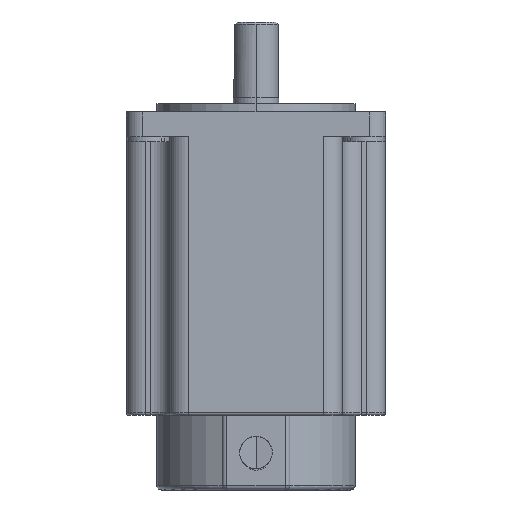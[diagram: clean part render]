
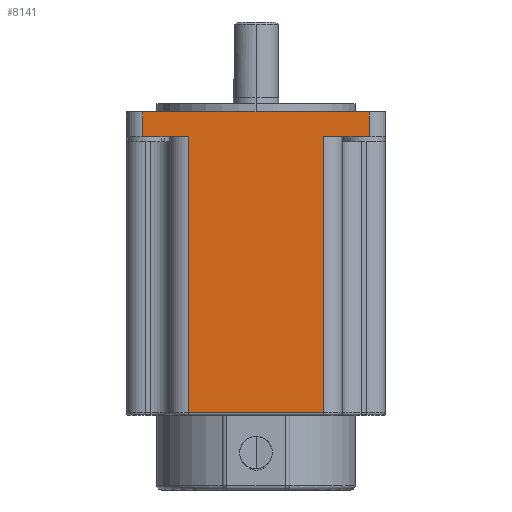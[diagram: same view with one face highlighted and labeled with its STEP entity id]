
A CAD part, left-side view. The second image highlights one B-rep face of the part: STEP entity #8141.
In plain terms, the highlighted planar face has unit normal (-1, 0, 0).
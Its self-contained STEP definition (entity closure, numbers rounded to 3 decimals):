
#1679=DIRECTION('',(0.,0.,-1.));
#1680=VECTOR('',#1679,118.3);
#1681=CARTESIAN_POINT('',(-157.914,14.418,-10.7));
#1682=LINE('',#1681,#1680);
#2141=DIRECTION('',(0.,0.,1.));
#2142=VECTOR('',#2141,10.7);
#2143=CARTESIAN_POINT('',(-157.914,91.918,-10.7));
#2144=LINE('',#2143,#2142);
#2149=DIRECTION('',(0.,1.,0.));
#2150=VECTOR('',#2149,97.);
#2151=CARTESIAN_POINT('',(-157.914,-5.082,0.));
#2152=LINE('',#2151,#2150);
#2157=DIRECTION('',(0.,0.,1.));
#2158=VECTOR('',#2157,118.3);
#2159=CARTESIAN_POINT('',(-157.914,72.418,-129.));
#2160=LINE('',#2159,#2158);
#2180=DIRECTION('',(0.,1.,0.));
#2181=VECTOR('',#2180,58.);
#2182=CARTESIAN_POINT('',(-157.914,14.418,-129.));
#2183=LINE('',#2182,#2181);
#2286=DIRECTION('',(0.,1.,0.));
#2287=VECTOR('',#2286,19.5);
#2288=CARTESIAN_POINT('',(-157.914,72.418,-10.7));
#2289=LINE('',#2288,#2287);
#3542=DIRECTION('',(0.,0.,-1.));
#3543=VECTOR('',#3542,10.7);
#3544=CARTESIAN_POINT('',(-157.914,-5.082,0.));
#3545=LINE('',#3544,#3543);
#3875=DIRECTION('',(0.,1.,0.));
#3876=VECTOR('',#3875,19.5);
#3877=CARTESIAN_POINT('',(-157.914,-5.082,-10.7));
#3878=LINE('',#3877,#3876);
#4275=CARTESIAN_POINT('',(-157.914,72.418,-129.));
#4276=CARTESIAN_POINT('',(-157.914,72.418,-10.7));
#4277=VERTEX_POINT('',#4275);
#4278=VERTEX_POINT('',#4276);
#4279=CARTESIAN_POINT('',(-157.914,14.418,-129.));
#4280=VERTEX_POINT('',#4279);
#4281=CARTESIAN_POINT('',(-157.914,14.418,-10.7));
#4282=VERTEX_POINT('',#4281);
#4283=CARTESIAN_POINT('',(-157.914,-5.082,-10.7));
#4284=VERTEX_POINT('',#4283);
#4285=CARTESIAN_POINT('',(-157.914,-5.082,0.));
#4286=VERTEX_POINT('',#4285);
#4287=CARTESIAN_POINT('',(-157.914,91.918,0.));
#4288=VERTEX_POINT('',#4287);
#4289=CARTESIAN_POINT('',(-157.914,91.918,-10.7));
#4290=VERTEX_POINT('',#4289);
#8121=CARTESIAN_POINT('',(-157.914,98.918,0.));
#8122=DIRECTION('',(1.,0.,0.));
#8123=DIRECTION('',(0.,0.,-1.));
#8124=AXIS2_PLACEMENT_3D('',#8121,#8122,#8123);
#8125=PLANE('',#8124);
#8127=ORIENTED_EDGE('',*,*,#8126,.T.);
#8129=ORIENTED_EDGE('',*,*,#8128,.T.);
#8130=ORIENTED_EDGE('',*,*,#8113,.T.);
#8131=ORIENTED_EDGE('',*,*,#7200,.F.);
#8133=ORIENTED_EDGE('',*,*,#8132,.T.);
#8135=ORIENTED_EDGE('',*,*,#8134,.T.);
#8136=ORIENTED_EDGE('',*,*,#7452,.T.);
#8138=ORIENTED_EDGE('',*,*,#8137,.T.);
#8139=EDGE_LOOP('',(#8127,#8129,#8130,#8131,#8133,#8135,#8136,#8138));
#8140=FACE_OUTER_BOUND('',#8139,.F.);
#8141=ADVANCED_FACE('',(#8140),#8125,.F.);
#7200=EDGE_CURVE('',#4286,#4288,#2152,.T.);
#7452=EDGE_CURVE('',#4282,#4280,#1682,.T.);
#8113=EDGE_CURVE('',#4290,#4288,#2144,.T.);
#8126=EDGE_CURVE('',#4277,#4278,#2160,.T.);
#8128=EDGE_CURVE('',#4278,#4290,#2289,.T.);
#8132=EDGE_CURVE('',#4286,#4284,#3545,.T.);
#8134=EDGE_CURVE('',#4284,#4282,#3878,.T.);
#8137=EDGE_CURVE('',#4280,#4277,#2183,.T.);
